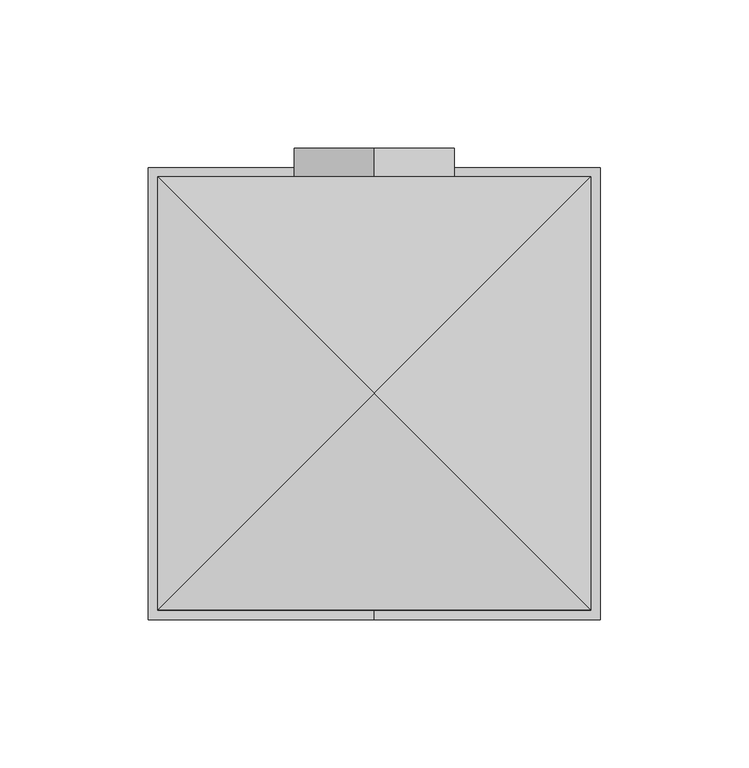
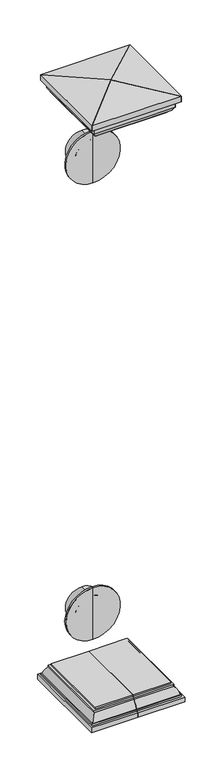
"""IFC4 building model written with IfcOpenShell, lengths in millimetres: railing geometry, RailEasy™ Nautilus Flat."""

from ifc_helpers import new_model, si_unit, point, frame, origin, place, context, project, spatial, polyline, circle_curve, ellipse_curve, trimmed, source, transform, mapped, element, save
from ifc_brep_helpers import plane_surface, cylinder_surface, revolved_surface, advanced_brep


def railing_6dc1cf43(model_context):
    return source(origin(), model_context, "Body", "AdvancedBrep", [
        advanced_brep(
        [(6384.1486243, 1148.0560787, 2046.549264), (6384.1486243, 1148.0560787, 2132.274264), (6384.1486243, 1146.4685787, 2133.861764), (6384.1486243, 1146.4685787, 2044.961764), (6384.1486243, 1148.0560787, 2060.836764), (6384.1486243, 1148.0560787, 2117.986764), (6384.1486243, 1149.6435787, 2062.424264), (6384.1486243, 1149.6435787, 2116.399264), (6384.1486243, 1143.2935787, 2044.961764), (6384.1486243, 1143.2935787, 2133.861764), (6384.1486243, 1143.2935787, 2089.411764), (6384.1486243, 1175.0435787, 2062.424264), (6384.1486243, 1175.0435787, 2116.399264), (6384.1486243, 1175.0435787, 2089.411764)],
        [
            (0, 1, circle_curve(frame((6384.1486243, 1148.0560787, 2089.411764), z_axis=(0.0, -1.0, 0.0), x_axis=(0.0, 0.0, 1.0)), 42.8625)),
            (1, 2),
            (2, 3, circle_curve(frame((6384.1486243, 1146.4685787, 2089.411764), z_axis=(0.0, 1.0, 0.0), x_axis=(0.0, 0.0, 1.0)), 44.45)),
            (3, 0),
            (1, 0, circle_curve(frame((6384.1486243, 1148.0560787, 2089.411764), z_axis=(0.0, -1.0, 0.0), x_axis=(0.0, 0.0, 1.0)), 42.8625)),
            (3, 2, circle_curve(frame((6384.1486243, 1146.4685787, 2089.411764), z_axis=(0.0, 1.0, 0.0), x_axis=(0.0, 0.0, 1.0)), 44.45)),
            (4, 5, circle_curve(frame((6384.1486243, 1148.0560787, 2089.411764), z_axis=(0.0, -1.0, 0.0), x_axis=(0.0, 0.0, 1.0)), 28.575)),
            (5, 1),
            (0, 4),
            (5, 4, circle_curve(frame((6384.1486243, 1148.0560787, 2089.411764), z_axis=(0.0, -1.0, 0.0), x_axis=(0.0, 0.0, 1.0)), 28.575)),
            (6, 7, circle_curve(frame((6384.1486243, 1149.6435787, 2089.411764), z_axis=(0.0, -1.0, 0.0), x_axis=(0.0, 0.0, 1.0)), 26.9875)),
            (7, 5, circle_curve(frame((6384.1486243, 1149.6435787, 2117.986764), z_axis=(-1.0, 0.0, 0.0), x_axis=(0.0, -1.0, 0.0)), 1.5875)),
            (4, 6, circle_curve(frame((6384.1486243, 1149.6435787, 2060.836764), z_axis=(-1.0, 0.0, 0.0), x_axis=(0.0, -1.0, 0.0)), 1.5875)),
            (7, 6, circle_curve(frame((6384.1486243, 1149.6435787, 2089.411764), z_axis=(0.0, -1.0, 0.0), x_axis=(0.0, 0.0, 1.0)), 26.9875)),
            (8, 9, circle_curve(frame((6384.1486243, 1143.2935787, 2089.411764), z_axis=(0.0, -1.0, 0.0), x_axis=(0.0, 0.0, 1.0)), 44.45)),
            (9, 10),
            (10, 8),
            (9, 8, circle_curve(frame((6384.1486243, 1143.2935787, 2089.411764), z_axis=(0.0, -1.0, 0.0), x_axis=(0.0, 0.0, 1.0)), 44.45)),
            (2, 9),
            (8, 3),
            (11, 12, circle_curve(frame((6384.1486243, 1175.0435787, 2089.411764), z_axis=(0.0, -1.0, 0.0), x_axis=(0.0, 0.0, 1.0)), 26.9875)),
            (12, 7),
            (6, 11),
            (12, 11, circle_curve(frame((6384.1486243, 1175.0435787, 2089.411764), z_axis=(0.0, -1.0, 0.0), x_axis=(0.0, 0.0, 1.0)), 26.9875)),
            (13, 12),
            (11, 13),
        ],
        [
            revolved_surface(polyline([(6384.1486243, 1146.4685787, 2133.861764), (6384.1486243, 1148.0560787, 2132.274264)]), (6384.1486243, 1175.0435787, 2089.411764), (0.0, 1.0, 0.0)),
            plane_surface(frame((6384.1486243, 1148.0560787, 2089.411764), z_axis=(0.0, 1.0, 0.0), x_axis=(0.0, 0.0, 1.0))),
            revolved_surface(trimmed(ellipse_curve(frame((6384.1486243, 1149.6435787, 2117.986764), z_axis=(1.0, 0.0, 0.0), x_axis=(0.0, -1.0, 0.0)), 1.5875, 1.5875), [point((6384.1486243, 1148.0560787, 2117.986764))], [point((6384.1486243, 1149.6435787, 2116.399264))], True, "CARTESIAN"), (6384.1486243, 1175.0435787, 2089.411764), (0.0, 1.0, 0.0)),
            plane_surface(frame((6384.1486243, 1143.2935787, 2089.411764), z_axis=(0.0, -1.0, 0.0), x_axis=(0.0, 0.0, 1.0))),
            cylinder_surface(frame((6384.1486243, 1175.0435787, 2089.411764), z_axis=(0.0, 1.0, 0.0), x_axis=(0.0, 0.0, 1.0)), 44.45),
            cylinder_surface(frame((6384.1486243, 1175.0435787, 2089.411764), z_axis=(0.0, 1.0, 0.0), x_axis=(0.0, 0.0, 1.0)), 26.9875),
            plane_surface(frame((6384.1486243, 1175.0435787, 2089.411764), z_axis=(0.0, 1.0, 0.0), x_axis=(0.0, 0.0, 1.0))),
        ],
        [
            (0, [[1, 2, 3, 4]]),
            (0, [[5, -4, 6, -2]]),
            (1, [[7, 8, -1, 9]]),
            (1, [[10, -9, -5, -8]]),
            (2, [[11, 12, -7, 13]]),
            (2, [[14, -13, -10, -12]]),
            (3, [[15, 16, 17]]),
            (3, [[18, -17, -16]]),
            (4, [[-3, 19, -15, 20]]),
            (4, [[-6, -20, -18, -19]]),
            (5, [[21, 22, -11, 23]]),
            (5, [[24, -23, -14, -22]]),
            (6, [[25, -21, 26]]),
            (6, [[-26, -24, -25]]),
        ],
    ),
        advanced_brep(
        [(6384.1486243, 1148.0560787, 2833.7651495), (6384.1486243, 1148.0560787, 2919.4901495), (6384.1486243, 1146.4685787, 2921.0776495), (6384.1486243, 1146.4685787, 2832.1776495), (6384.1486243, 1148.0560787, 2848.0526495), (6384.1486243, 1148.0560787, 2905.2026495), (6384.1486243, 1149.6435787, 2849.6401495), (6384.1486243, 1149.6435787, 2903.6151495), (6384.1486243, 1143.2935787, 2832.1776495), (6384.1486243, 1143.2935787, 2921.0776495), (6384.1486243, 1143.2935787, 2876.6276495), (6384.1486243, 1175.0435787, 2849.6401495), (6384.1486243, 1175.0435787, 2903.6151495), (6384.1486243, 1175.0435787, 2876.6276495)],
        [
            (0, 1, circle_curve(frame((6384.1486243, 1148.0560787, 2876.6276495), z_axis=(0.0, -1.0, 0.0), x_axis=(0.0, 0.0, 1.0)), 42.8625)),
            (1, 2),
            (2, 3, circle_curve(frame((6384.1486243, 1146.4685787, 2876.6276495), z_axis=(0.0, 1.0, 0.0), x_axis=(0.0, 0.0, 1.0)), 44.45)),
            (3, 0),
            (1, 0, circle_curve(frame((6384.1486243, 1148.0560787, 2876.6276495), z_axis=(0.0, -1.0, 0.0), x_axis=(0.0, 0.0, 1.0)), 42.8625)),
            (3, 2, circle_curve(frame((6384.1486243, 1146.4685787, 2876.6276495), z_axis=(0.0, 1.0, 0.0), x_axis=(0.0, 0.0, 1.0)), 44.45)),
            (4, 5, circle_curve(frame((6384.1486243, 1148.0560787, 2876.6276495), z_axis=(0.0, -1.0, 0.0), x_axis=(0.0, 0.0, 1.0)), 28.575)),
            (5, 1),
            (0, 4),
            (5, 4, circle_curve(frame((6384.1486243, 1148.0560787, 2876.6276495), z_axis=(0.0, -1.0, 0.0), x_axis=(0.0, 0.0, 1.0)), 28.575)),
            (6, 7, circle_curve(frame((6384.1486243, 1149.6435787, 2876.6276495), z_axis=(0.0, -1.0, 0.0), x_axis=(0.0, 0.0, 1.0)), 26.9875)),
            (7, 5, circle_curve(frame((6384.1486243, 1149.6435787, 2905.2026495), z_axis=(-1.0, 0.0, 0.0), x_axis=(0.0, -1.0, 0.0)), 1.5875)),
            (4, 6, circle_curve(frame((6384.1486243, 1149.6435787, 2848.0526495), z_axis=(-1.0, 0.0, 0.0), x_axis=(0.0, -1.0, 0.0)), 1.5875)),
            (7, 6, circle_curve(frame((6384.1486243, 1149.6435787, 2876.6276495), z_axis=(0.0, -1.0, 0.0), x_axis=(0.0, 0.0, 1.0)), 26.9875)),
            (8, 9, circle_curve(frame((6384.1486243, 1143.2935787, 2876.6276495), z_axis=(0.0, -1.0, 0.0), x_axis=(0.0, 0.0, 1.0)), 44.45)),
            (9, 10),
            (10, 8),
            (9, 8, circle_curve(frame((6384.1486243, 1143.2935787, 2876.6276495), z_axis=(0.0, -1.0, 0.0), x_axis=(0.0, 0.0, 1.0)), 44.45)),
            (2, 9),
            (8, 3),
            (11, 12, circle_curve(frame((6384.1486243, 1175.0435787, 2876.6276495), z_axis=(0.0, -1.0, 0.0), x_axis=(0.0, 0.0, 1.0)), 26.9875)),
            (12, 7),
            (6, 11),
            (12, 11, circle_curve(frame((6384.1486243, 1175.0435787, 2876.6276495), z_axis=(0.0, -1.0, 0.0), x_axis=(0.0, 0.0, 1.0)), 26.9875)),
            (13, 12),
            (11, 13),
        ],
        [
            revolved_surface(polyline([(6384.1486243, 1146.4685787, 2921.0776495), (6384.1486243, 1148.0560787, 2919.4901495)]), (6384.1486243, 1143.2935787, 2876.6276495), (0.0, 1.0, 0.0)),
            plane_surface(frame((6384.1486243, 1148.0560787, 2876.6276495), z_axis=(0.0, 1.0, 0.0), x_axis=(0.0, 0.0, 1.0))),
            revolved_surface(trimmed(ellipse_curve(frame((6384.1486243, 1149.6435787, 2905.2026495), z_axis=(1.0, 0.0, 0.0), x_axis=(0.0, -1.0, 0.0)), 1.5875, 1.5875), [point((6384.1486243, 1148.0560787, 2905.2026495))], [point((6384.1486243, 1149.6435787, 2903.6151495))], True, "CARTESIAN"), (6384.1486243, 1143.2935787, 2876.6276495), (0.0, 1.0, 0.0)),
            plane_surface(frame((6384.1486243, 1143.2935787, 2876.6276495), z_axis=(0.0, -1.0, 0.0), x_axis=(0.0, 0.0, 1.0))),
            cylinder_surface(frame((6384.1486243, 1143.2935787, 2876.6276495), z_axis=(0.0, 1.0, 0.0), x_axis=(0.0, 0.0, 1.0)), 44.45),
            cylinder_surface(frame((6384.1486243, 1143.2935787, 2876.6276495), z_axis=(0.0, 1.0, 0.0), x_axis=(0.0, 0.0, 1.0)), 26.9875),
            plane_surface(frame((6384.1486243, 1175.0435787, 2876.6276495), z_axis=(0.0, 1.0, 0.0), x_axis=(0.0, 0.0, 1.0))),
        ],
        [
            (0, [[1, 2, 3, 4]]),
            (0, [[5, -4, 6, -2]]),
            (1, [[7, 8, -1, 9]]),
            (1, [[10, -9, -5, -8]]),
            (2, [[11, 12, -7, 13]]),
            (2, [[14, -13, -10, -12]]),
            (3, [[15, 16, 17]]),
            (3, [[18, -17, -16]]),
            (4, [[-3, 19, -15, 20]]),
            (4, [[-6, -20, -18, -19]]),
            (5, [[21, 22, -11, 23]]),
            (5, [[24, -23, -14, -22]]),
            (6, [[25, -21, 26]]),
            (6, [[-26, -24, -25]]),
        ],
    ),
        advanced_brep(
        [(6384.1486243, 1016.2935787, 1987.826087), (6384.1486243, 1016.2935787, 1995.763587), (6384.1486243, 1019.4685787, 1995.763587), (6384.1486243, 1019.4685787, 1998.938587), (6384.1486243, 1021.0560787, 1998.938587), (6384.1486243, 1027.4060787, 2011.638587), (6384.1486243, 1027.4060787, 2014.813587), (6384.1486243, 1030.5810787, 2014.813587), (6384.1486243, 1030.5810787, 2017.988587), (6384.1486243, 1154.4060787, 2017.988587), (6384.1486243, 1154.4060787, 2014.813587), (6384.1486243, 1157.5810787, 2014.813587), (6384.1486243, 1157.5810787, 2011.638587), (6384.1486243, 1163.9310787, 1998.938587), (6384.1486243, 1165.5185787, 1998.938587), (6384.1486243, 1165.5185787, 1995.763587), (6384.1486243, 1168.6935787, 1995.763587), (6384.1486243, 1168.6935787, 1987.826087), (6446.0611243, 1030.5810787, 2017.988587), (6446.0611243, 1154.4060787, 2017.988587), (6446.0611243, 1030.5810787, 2014.813587), (6446.0611243, 1154.4060787, 2014.813587), (6449.2361243, 1027.4060787, 2014.813587), (6449.2361243, 1157.5810787, 2014.813587), (6449.2361243, 1027.4060787, 2011.638587), (6449.2361243, 1157.5810787, 2011.638587), (6455.5861243, 1021.0560787, 1998.938587), (6455.5861243, 1163.9310787, 1998.938587), (6457.1736243, 1019.4685787, 1998.938587), (6457.1736243, 1165.5185787, 1998.938587), (6457.1736243, 1019.4685787, 1995.763587), (6457.1736243, 1165.5185787, 1995.763587), (6460.3486243, 1016.2935787, 1995.763587), (6460.3486243, 1168.6935787, 1995.763587), (6460.3486243, 1016.2935787, 1987.826087), (6460.3486243, 1168.6935787, 1987.826087)],
        [
            (0, 1),
            (1, 2),
            (2, 3),
            (3, 4),
            (4, 5, circle_curve(frame((6384.1486243, 1046.4560787, 1994.176087), z_axis=(-1.0, 0.0, 0.0), x_axis=(0.0, -1.0, 0.0)), 25.8426277)),
            (5, 6),
            (6, 7),
            (7, 8),
            (8, 9),
            (9, 10),
            (10, 11),
            (11, 12),
            (12, 13, circle_curve(frame((6384.1486243, 1138.5310787, 1994.176087), z_axis=(-1.0, 0.0, 0.0), x_axis=(0.0, -1.0, 0.0)), 25.8426277)),
            (13, 14),
            (14, 15),
            (15, 16),
            (16, 17),
            (17, 0),
            (8, 18),
            (18, 19),
            (19, 9),
            (18, 20),
            (20, 21),
            (21, 19),
            (20, 7),
            (6, 22),
            (22, 23),
            (23, 11),
            (10, 21),
            (22, 24),
            (24, 25),
            (25, 23),
            (24, 26, ellipse_curve(frame((6430.1861243, 1046.4560787, 1994.176087), z_axis=(0.7071067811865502, 0.7071067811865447, 0.0), x_axis=(-0.7071067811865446, 0.7071067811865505, 0.0)), 36.5469946, 25.8426277)),
            (26, 27),
            (27, 25, ellipse_curve(frame((6430.1861243, 1138.5310787, 1994.176087), z_axis=(0.7071067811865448, -0.7071067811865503, 0.0), x_axis=(0.7071067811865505, 0.7071067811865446, 0.0)), 36.5469946, 25.8426277)),
            (26, 4),
            (3, 28),
            (28, 29),
            (29, 14),
            (13, 27),
            (28, 30),
            (30, 31),
            (31, 29),
            (30, 2),
            (1, 32),
            (32, 33),
            (33, 16),
            (15, 31),
            (32, 34),
            (34, 35),
            (35, 33),
            (34, 0),
            (17, 35),
            (5, 24),
            (12, 25),
        ],
        [
            plane_surface(frame((6384.1486243, 1185.6394663, 1987.826087), z_axis=(-1.0, 0.0, 0.0), x_axis=(0.0, -1.0, 0.0))),
            plane_surface(frame((6384.1486243, 1185.6394663, 2017.988587), z_axis=(0.0, 0.0, 1.0), x_axis=(0.0, -1.0, 0.0))),
            plane_surface(frame((6446.0611243, 1185.6394663, 2017.988587), z_axis=(1.0, 0.0, 0.0), x_axis=(0.0, -1.0, 0.0))),
            plane_surface(frame((6446.0611243, 1185.6394663, 2014.813587), z_axis=(0.0, 0.0, 1.0), x_axis=(0.0, -1.0, 0.0))),
            plane_surface(frame((6449.2361243, 1185.6394663, 2014.813587), z_axis=(1.0, 0.0, 0.0), x_axis=(0.0, -1.0, 0.0))),
            cylinder_surface(frame((6430.1861243, 999.3476912, 1994.176087), z_axis=(0.0, 1.0, 0.0), x_axis=(-1.0, 0.0, 0.0)), 25.8426277),
            plane_surface(frame((6455.5861243, 1185.6394663, 1998.938587), z_axis=(0.0, 0.0, 1.0), x_axis=(0.0, -1.0, 0.0))),
            plane_surface(frame((6457.1736243, 1185.6394663, 1998.938587), z_axis=(1.0, 0.0, 0.0), x_axis=(0.0, -1.0, 0.0))),
            plane_surface(frame((6457.1736243, 1185.6394663, 1995.763587), z_axis=(0.0, 0.0, 1.0), x_axis=(0.0, -1.0, 0.0))),
            plane_surface(frame((6460.3486243, 1185.6394663, 1995.763587), z_axis=(1.0, 0.0, 0.0), x_axis=(0.0, -1.0, 0.0))),
            plane_surface(frame((6460.3486243, 1185.6394663, 1987.826087), z_axis=(0.0, 0.0, -1.0), x_axis=(0.0, -1.0, 0.0))),
            plane_surface(frame((6307.9486243, 1016.2935787, 1995.763587), z_axis=(0.0, -1.0, 0.0), x_axis=(1.0, 0.0, 0.0))),
            plane_surface(frame((6307.9486243, 1030.5810787, 2017.988587), z_axis=(0.0, -1.0, 0.0), x_axis=(1.0, 0.0, 0.0))),
            plane_surface(frame((6307.9486243, 1027.4060787, 2014.813587), z_axis=(0.0, -1.0, 0.0), x_axis=(1.0, 0.0, 0.0))),
            cylinder_surface(frame((6460.3486243, 1046.4560787, 1994.176087), z_axis=(1.0, 0.0, 0.0), x_axis=(0.0, -1.0, 0.0)), 25.8426277),
            plane_surface(frame((6307.9486243, 1019.4685787, 1998.938587), z_axis=(0.0, -1.0, 0.0), x_axis=(1.0, 0.0, 0.0))),
            plane_surface(frame((6307.9486243, 1168.6935787, 1987.826087), z_axis=(0.0, 1.0, 0.0), x_axis=(1.0, 0.0, 0.0))),
            plane_surface(frame((6307.9486243, 1165.5185787, 1995.763587), z_axis=(0.0, 1.0, 0.0), x_axis=(1.0, 0.0, 0.0))),
            cylinder_surface(frame((6460.3486243, 1138.5310787, 1994.176087), z_axis=(1.0, 0.0, 0.0), x_axis=(0.0, -1.0, 0.0)), 25.8426277),
            plane_surface(frame((6307.9486243, 1157.5810787, 2011.638587), z_axis=(0.0, 1.0, 0.0), x_axis=(1.0, 0.0, 0.0))),
            plane_surface(frame((6307.9486243, 1154.4060787, 2014.813587), z_axis=(0.0, 1.0, 0.0), x_axis=(1.0, 0.0, 0.0))),
        ],
        [
            (0, [[1, 2, 3, 4, 5, 6, 7, 8, 9, 10, 11, 12, 13, 14, 15, 16, 17, 18]]),
            (1, [[19, 20, 21, -9]]),
            (2, [[22, 23, 24, -20]]),
            (3, [[25, -7, 26, 27, 28, -11, 29, -23]]),
            (4, [[-27, 30, 31, 32]]),
            (5, [[33, 34, 35, -31]]),
            (6, [[36, -4, 37, 38, 39, -14, 40, -34]]),
            (7, [[-38, 41, 42, 43]]),
            (8, [[44, -2, 45, 46, 47, -16, 48, -42]]),
            (9, [[-46, 49, 50, 51]]),
            (10, [[52, -18, 53, -50]]),
            (11, [[-1, -52, -49, -45]]),
            (12, [[-25, -22, -19, -8]]),
            (13, [[54, -30, -26, -6]]),
            (14, [[-54, -5, -36, -33]]),
            (15, [[-44, -41, -37, -3]]),
            (16, [[-47, -51, -53, -17]]),
            (17, [[-48, -15, -39, -43]]),
            (18, [[-40, -13, 55, -35]]),
            (19, [[-55, -12, -28, -32]]),
            (20, [[-29, -10, -21, -24]]),
        ],
    ),
        advanced_brep(
        [(6384.1486243, 1016.2935787, 1995.763587), (6384.1486243, 1016.2935787, 1987.826087), (6384.1486243, 1168.6935787, 1987.826087), (6384.1486243, 1168.6935787, 1995.763587), (6384.1486243, 1165.5185787, 1995.763587), (6384.1486243, 1165.5185787, 1998.938587), (6384.1486243, 1163.9310787, 1998.938587), (6384.1486243, 1157.5810787, 2011.638587), (6384.1486243, 1157.5810787, 2014.813587), (6384.1486243, 1154.4060787, 2014.813587), (6384.1486243, 1154.4060787, 2017.988587), (6384.1486243, 1030.5810787, 2017.988587), (6384.1486243, 1030.5810787, 2014.813587), (6384.1486243, 1027.4060787, 2014.813587), (6384.1486243, 1027.4060787, 2011.638587), (6384.1486243, 1021.0560787, 1998.938587), (6384.1486243, 1019.4685787, 1998.938587), (6384.1486243, 1019.4685787, 1995.763587), (6322.2361243, 1030.5810787, 2017.988587), (6322.2361243, 1154.4060787, 2017.988587), (6322.2361243, 1030.5810787, 2014.813587), (6322.2361243, 1154.4060787, 2014.813587), (6319.0611243, 1157.5810787, 2014.813587), (6319.0611243, 1027.4060787, 2014.813587), (6319.0611243, 1027.4060787, 2011.638587), (6319.0611243, 1157.5810787, 2011.638587), (6312.7111243, 1021.0560787, 1998.938587), (6312.7111243, 1163.9310787, 1998.938587), (6311.1236243, 1165.5185787, 1998.938587), (6311.1236243, 1019.4685787, 1998.938587), (6311.1236243, 1019.4685787, 1995.763587), (6311.1236243, 1165.5185787, 1995.763587), (6307.9486243, 1168.6935787, 1995.763587), (6307.9486243, 1016.2935787, 1995.763587), (6307.9486243, 1016.2935787, 1987.826087), (6307.9486243, 1168.6935787, 1987.826087)],
        [
            (0, 1),
            (1, 2),
            (2, 3),
            (3, 4),
            (4, 5),
            (5, 6),
            (6, 7, circle_curve(frame((6384.1486243, 1138.5310787, 1994.176087), z_axis=(1.0, 0.0, 0.0), x_axis=(0.0, -1.0, 0.0)), 25.8426277)),
            (7, 8),
            (8, 9),
            (9, 10),
            (10, 11),
            (11, 12),
            (12, 13),
            (13, 14),
            (14, 15, circle_curve(frame((6384.1486243, 1046.4560787, 1994.176087), z_axis=(1.0, 0.0, 0.0), x_axis=(0.0, -1.0, 0.0)), 25.8426277)),
            (15, 16),
            (16, 17),
            (17, 0),
            (18, 11),
            (10, 19),
            (19, 18),
            (20, 18),
            (19, 21),
            (21, 20),
            (12, 20),
            (21, 9),
            (8, 22),
            (22, 23),
            (23, 13),
            (24, 23),
            (22, 25),
            (25, 24),
            (26, 24, ellipse_curve(frame((6338.1111243, 1046.4560787, 1994.176087), z_axis=(-0.7071067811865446, 0.7071067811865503, 0.0), x_axis=(0.7071067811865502, 0.7071067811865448, 0.0)), 36.5469946, 25.8426277)),
            (25, 27, ellipse_curve(frame((6338.1111243, 1138.5310787, 1994.176087), z_axis=(-0.7071067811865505, -0.7071067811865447, 0.0), x_axis=(-0.7071067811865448, 0.7071067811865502, 0.0)), 36.5469946, 25.8426277)),
            (27, 26),
            (15, 26),
            (27, 6),
            (5, 28),
            (28, 29),
            (29, 16),
            (30, 29),
            (28, 31),
            (31, 30),
            (17, 30),
            (31, 4),
            (3, 32),
            (32, 33),
            (33, 0),
            (34, 33),
            (32, 35),
            (35, 34),
            (1, 34),
            (35, 2),
            (24, 14),
            (25, 7),
        ],
        [
            plane_surface(frame((6384.1486243, 1185.6394663, 2017.988587), z_axis=(1.0, 0.0, 0.0), x_axis=(0.0, -1.0, 0.0))),
            plane_surface(frame((6322.2361243, 1185.6394663, 2017.988587), z_axis=(0.0, 0.0, 1.0), x_axis=(0.0, -1.0, 0.0))),
            plane_surface(frame((6322.2361243, 1185.6394663, 2014.813587), z_axis=(-1.0, 0.0, 0.0), x_axis=(0.0, -1.0, 0.0))),
            plane_surface(frame((6319.0611243, 1185.6394663, 2014.813587), z_axis=(0.0, 0.0, 1.0), x_axis=(0.0, -1.0, 0.0))),
            plane_surface(frame((6319.0611243, 1185.6394663, 2011.638587), z_axis=(-1.0, 0.0, 0.0), x_axis=(0.0, -1.0, 0.0))),
            cylinder_surface(frame((6338.1111243, 999.3476912, 1994.176087), z_axis=(0.0, 1.0, 0.0), x_axis=(1.0, 0.0, 0.0)), 25.8426277),
            plane_surface(frame((6311.1236243, 1185.6394663, 1998.938587), z_axis=(0.0, 0.0, 1.0), x_axis=(0.0, -1.0, 0.0))),
            plane_surface(frame((6311.1236243, 1185.6394663, 1995.763587), z_axis=(-1.0, 0.0, 0.0), x_axis=(0.0, -1.0, 0.0))),
            plane_surface(frame((6307.9486243, 1185.6394663, 1995.763587), z_axis=(0.0, 0.0, 1.0), x_axis=(0.0, -1.0, 0.0))),
            plane_surface(frame((6307.9486243, 1185.6394663, 1987.826087), z_axis=(-1.0, 0.0, 0.0), x_axis=(0.0, -1.0, 0.0))),
            plane_surface(frame((6384.1486243, 1185.6394663, 1987.826087), z_axis=(0.0, 0.0, -1.0), x_axis=(0.0, -1.0, 0.0))),
            plane_surface(frame((6307.9486243, 1016.2935787, 1995.763587), z_axis=(0.0, -1.0, 0.0), x_axis=(1.0, 0.0, 0.0))),
            plane_surface(frame((6307.9486243, 1030.5810787, 2017.988587), z_axis=(0.0, -1.0, 0.0), x_axis=(1.0, 0.0, 0.0))),
            plane_surface(frame((6307.9486243, 1027.4060787, 2014.813587), z_axis=(0.0, -1.0, 0.0), x_axis=(1.0, 0.0, 0.0))),
            cylinder_surface(frame((6460.3486243, 1046.4560787, 1994.176087), z_axis=(1.0, 0.0, 0.0), x_axis=(0.0, -1.0, 0.0)), 25.8426277),
            plane_surface(frame((6307.9486243, 1019.4685787, 1998.938587), z_axis=(0.0, -1.0, 0.0), x_axis=(1.0, 0.0, 0.0))),
            plane_surface(frame((6307.9486243, 1168.6935787, 1987.826087), z_axis=(0.0, 1.0, 0.0), x_axis=(1.0, 0.0, 0.0))),
            plane_surface(frame((6307.9486243, 1165.5185787, 1995.763587), z_axis=(0.0, 1.0, 0.0), x_axis=(1.0, 0.0, 0.0))),
            cylinder_surface(frame((6460.3486243, 1138.5310787, 1994.176087), z_axis=(1.0, 0.0, 0.0), x_axis=(0.0, -1.0, 0.0)), 25.8426277),
            plane_surface(frame((6307.9486243, 1157.5810787, 2011.638587), z_axis=(0.0, 1.0, 0.0), x_axis=(1.0, 0.0, 0.0))),
            plane_surface(frame((6307.9486243, 1154.4060787, 2014.813587), z_axis=(0.0, 1.0, 0.0), x_axis=(1.0, 0.0, 0.0))),
        ],
        [
            (0, [[1, 2, 3, 4, 5, 6, 7, 8, 9, 10, 11, 12, 13, 14, 15, 16, 17, 18]]),
            (1, [[19, -11, 20, 21]]),
            (2, [[22, -21, 23, 24]]),
            (3, [[25, -24, 26, -9, 27, 28, 29, -13]]),
            (4, [[30, -28, 31, 32]]),
            (5, [[33, -32, 34, 35]]),
            (6, [[36, -35, 37, -6, 38, 39, 40, -16]]),
            (7, [[41, -39, 42, 43]]),
            (8, [[44, -43, 45, -4, 46, 47, 48, -18]]),
            (9, [[49, -47, 50, 51]]),
            (10, [[52, -51, 53, -2]]),
            (11, [[-1, -48, -49, -52]]),
            (12, [[-25, -12, -19, -22]]),
            (13, [[54, -14, -29, -30]]),
            (14, [[-54, -33, -36, -15]]),
            (15, [[-44, -17, -40, -41]]),
            (16, [[-46, -3, -53, -50]]),
            (17, [[-45, -42, -38, -5]]),
            (18, [[-37, -34, 55, -7]]),
            (19, [[-55, -31, -27, -8]]),
            (20, [[-26, -23, -20, -10]]),
        ],
    ),
        advanced_brep(
        [(6311.1236243, 1019.4685787, 3030.813587), (6384.1486243, 1092.4935787, 3040.338587), (6311.1236243, 1165.5185787, 3030.813587), (6311.1236243, 1019.4685787, 3021.288587), (6311.1236243, 1165.5185787, 3021.288587), (6317.4736243, 1025.8185787, 3021.288587), (6317.4736243, 1159.1685787, 3021.288587), (6317.4736243, 1025.8185787, 3010.1299834), (6317.4736243, 1159.1685787, 3010.1299834), (6321.144718, 1029.4896725, 3003.826087), (6321.144718, 1155.497485, 3003.826087), (6324.319718, 1032.6646725, 3003.826087), (6324.319718, 1152.322485, 3003.826087), (6330.669718, 1039.0146725, 2997.476087), (6330.669718, 1145.972485, 2997.476087), (6330.669718, 1039.0146725, 2995.888587), (6330.669718, 1145.972485, 2995.888587), (6384.1486243, 1092.4935787, 2995.888587)],
        [
            (0, 1),
            (1, 2),
            (2, 0),
            (3, 0),
            (2, 4),
            (4, 3),
            (5, 3),
            (4, 6),
            (6, 5),
            (7, 5),
            (6, 8),
            (8, 7),
            (9, 7, ellipse_curve(frame((6308.444718, 1016.7896725, 3000.651087), z_axis=(0.7071067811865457, -0.7071067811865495, 0.0), x_axis=(-0.7071067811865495, -0.7071067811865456, 0.0)), 18.5132723, 13.0908604)),
            (8, 10, ellipse_curve(frame((6308.444718, 1168.197485, 3000.651087), z_axis=(0.7071067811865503, 0.7071067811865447, 0.0), x_axis=(0.7071067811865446, -0.7071067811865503, 0.0)), 18.5132723, 13.0908604)),
            (10, 9),
            (11, 9),
            (10, 12),
            (12, 11),
            (13, 11, ellipse_curve(frame((6330.669718, 1039.0146725, 3003.826087), z_axis=(-0.7071067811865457, 0.7071067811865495, 0.0), x_axis=(0.7071067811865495, 0.7071067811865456, 0.0)), 8.9802561, 6.35)),
            (12, 14, ellipse_curve(frame((6330.669718, 1145.972485, 3003.826087), z_axis=(-0.7071067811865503, -0.7071067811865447, 0.0), x_axis=(-0.7071067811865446, 0.7071067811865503, 0.0)), 8.9802561, 6.35)),
            (14, 13),
            (15, 13),
            (14, 16),
            (16, 15),
            (17, 15),
            (16, 17),
            (17, 1),
        ],
        [
            plane_surface(frame((6311.1236243, 1209.6952874, 3030.813587), z_axis=(-0.12933918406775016, 0.0, 0.9916004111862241), x_axis=(0.0, -1.0, 0.0))),
            plane_surface(frame((6311.1236243, 1209.6952874, 3021.288587), z_axis=(-1.0, 0.0, 0.0), x_axis=(0.0, -1.0, 0.0))),
            plane_surface(frame((6317.4736243, 1209.6952874, 3021.288587), z_axis=(0.0, 0.0, -1.0), x_axis=(0.0, -1.0, 0.0))),
            plane_surface(frame((6317.4736243, 1209.6952874, 3010.1299834), z_axis=(-1.0, 0.0, 0.0), x_axis=(0.0, -1.0, 0.0))),
            revolved_surface(polyline([(6321.535578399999, 1003.698812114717, 3000.651087), (6321.535578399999, 1181.288345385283, 3000.651087)]), (6308.444718, 983.1999994, 3000.651087), (0.0, -1.0, 0.0)),
            plane_surface(frame((6324.319718, 1209.6952874, 3003.826087), z_axis=(0.0, 0.0, -1.0), x_axis=(0.0, -1.0, 0.0))),
            cylinder_surface(frame((6330.669718, 983.1999994, 3003.826087), z_axis=(0.0, 1.0, 0.0), x_axis=(1.0, 0.0, 0.0)), 6.35),
            plane_surface(frame((6330.669718, 1209.6952874, 2995.888587), z_axis=(-1.0, 0.0, 0.0), x_axis=(0.0, -1.0, 0.0))),
            plane_surface(frame((6384.1486243, 1209.6952874, 2995.888587), z_axis=(0.0, 0.0, -1.0), x_axis=(0.0, -1.0, 0.0))),
            plane_surface(frame((6384.1486243, 1092.4935787, 3224.488587), z_axis=(0.7071067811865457, -0.7071067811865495, 0.0), x_axis=(0.0, 0.0, -1.0))),
            plane_surface(frame((6250.7986243, 1225.8435787, 3224.488587), z_axis=(0.7071067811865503, 0.7071067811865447, 0.0), x_axis=(0.0, 0.0, -1.0))),
        ],
        [
            (0, [[1, 2, 3]]),
            (1, [[4, -3, 5, 6]]),
            (2, [[7, -6, 8, 9]]),
            (3, [[10, -9, 11, 12]]),
            (4, [[13, -12, 14, 15]]),
            (5, [[16, -15, 17, 18]]),
            (6, [[19, -18, 20, 21]]),
            (7, [[22, -21, 23, 24]]),
            (8, [[25, -24, 26]]),
            (9, [[-1, -4, -7, -10, -13, -16, -19, -22, -25, 27]]),
            (10, [[-2, -27, -26, -23, -20, -17, -14, -11, -8, -5]]),
        ],
    ),
        advanced_brep(
        [(6384.1486243, 1092.4935787, 3040.338587), (6457.1736243, 1019.4685787, 3030.813587), (6457.1736243, 1165.5185787, 3030.813587), (6457.1736243, 1019.4685787, 3021.288587), (6457.1736243, 1165.5185787, 3021.288587), (6450.8236243, 1025.8185787, 3021.288587), (6450.8236243, 1159.1685787, 3021.288587), (6450.8236243, 1025.8185787, 3010.1299834), (6450.8236243, 1159.1685787, 3010.1299834), (6447.1525305, 1029.4896725, 3003.826087), (6447.1525305, 1155.497485, 3003.826087), (6443.9775305, 1032.6646725, 3003.826087), (6443.9775305, 1152.322485, 3003.826087), (6437.6275305, 1039.0146725, 2997.476087), (6437.6275305, 1145.972485, 2997.476087), (6437.6275305, 1039.0146725, 2995.888587), (6437.6275305, 1145.972485, 2995.888587), (6384.1486243, 1092.4935787, 2995.888587)],
        [
            (0, 1),
            (1, 2),
            (2, 0),
            (1, 3),
            (3, 4),
            (4, 2),
            (3, 5),
            (5, 6),
            (6, 4),
            (5, 7),
            (7, 8),
            (8, 6),
            (7, 9, ellipse_curve(frame((6459.8525305, 1016.7896725, 3000.651087), z_axis=(-0.7071067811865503, -0.7071067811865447, 0.0), x_axis=(0.7071067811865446, -0.7071067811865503, 0.0)), 18.5132723, 13.0908604)),
            (9, 10),
            (10, 8, ellipse_curve(frame((6459.8525305, 1168.197485, 3000.651087), z_axis=(-0.7071067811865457, 0.7071067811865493, 0.0), x_axis=(-0.7071067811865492, -0.7071067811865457, 0.0)), 18.5132723, 13.0908604)),
            (9, 11),
            (11, 12),
            (12, 10),
            (11, 13, ellipse_curve(frame((6437.6275305, 1039.0146725, 3003.826087), z_axis=(0.7071067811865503, 0.7071067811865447, 0.0), x_axis=(-0.7071067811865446, 0.7071067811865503, 0.0)), 8.9802561, 6.35)),
            (13, 14),
            (14, 12, ellipse_curve(frame((6437.6275305, 1145.972485, 3003.826087), z_axis=(0.7071067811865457, -0.7071067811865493, 0.0), x_axis=(0.7071067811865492, 0.7071067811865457, 0.0)), 8.9802561, 6.35)),
            (13, 15),
            (15, 16),
            (16, 14),
            (15, 17),
            (17, 16),
            (0, 17),
        ],
        [
            plane_surface(frame((6384.1486243, 1209.6952874, 3040.338587), z_axis=(0.12933918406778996, 0.0, 0.9916004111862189), x_axis=(0.0, -1.0, 0.0))),
            plane_surface(frame((6457.1736243, 1209.6952874, 3030.813587), z_axis=(1.0, 0.0, 0.0), x_axis=(0.0, -1.0, 0.0))),
            plane_surface(frame((6457.1736243, 1209.6952874, 3021.288587), z_axis=(0.0, 0.0, -1.0), x_axis=(0.0, -1.0, 0.0))),
            plane_surface(frame((6450.8236243, 1209.6952874, 3021.288587), z_axis=(1.0, 0.0, 0.0), x_axis=(0.0, -1.0, 0.0))),
            revolved_surface(polyline([(6446.761670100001, 1003.6988121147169, 3000.651087), (6446.761670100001, 1181.288345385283, 3000.651087)]), (6459.8525305, 983.1999994, 3000.651087), (0.0, -1.0, 0.0)),
            plane_surface(frame((6447.1525305, 1209.6952874, 3003.826087), z_axis=(0.0, 0.0, -1.0), x_axis=(0.0, -1.0, 0.0))),
            cylinder_surface(frame((6437.6275305, 983.1999994, 3003.826087), z_axis=(0.0, 1.0, 0.0), x_axis=(-1.0, 0.0, 0.0)), 6.35),
            plane_surface(frame((6437.6275305, 1209.6952874, 2997.476087), z_axis=(1.0, 0.0, 0.0), x_axis=(0.0, -1.0, 0.0))),
            plane_surface(frame((6437.6275305, 1209.6952874, 2995.888587), z_axis=(0.0, 0.0, -1.0), x_axis=(0.0, -1.0, 0.0))),
            plane_surface(frame((6493.4422036, 983.1999994, 3224.488587), z_axis=(-0.7071067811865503, -0.7071067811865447, 0.0), x_axis=(0.0, 0.0, -1.0))),
            plane_surface(frame((6384.1486243, 1092.4935787, 3224.488587), z_axis=(-0.7071067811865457, 0.7071067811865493, 0.0), x_axis=(0.0, 0.0, -1.0))),
        ],
        [
            (0, [[1, 2, 3]]),
            (1, [[4, 5, 6, -2]]),
            (2, [[7, 8, 9, -5]]),
            (3, [[10, 11, 12, -8]]),
            (4, [[13, 14, 15, -11]]),
            (5, [[16, 17, 18, -14]]),
            (6, [[19, 20, 21, -17]]),
            (7, [[22, 23, 24, -20]]),
            (8, [[25, 26, -23]]),
            (9, [[-1, 27, -25, -22, -19, -16, -13, -10, -7, -4]]),
            (10, [[-3, -6, -9, -12, -15, -18, -21, -24, -26, -27]]),
        ],
    ),
        advanced_brep(
        [(6384.1486243, 1092.4935787, 3040.338587), (6311.1236243, 1019.4685787, 3030.813587), (6457.1736243, 1019.4685787, 3030.813587), (6311.1236243, 1019.4685787, 3021.288587), (6457.1736243, 1019.4685787, 3021.288587), (6317.4736243, 1025.8185787, 3021.288587), (6450.8236243, 1025.8185787, 3021.288587), (6317.4736243, 1025.8185787, 3010.1299834), (6450.8236243, 1025.8185787, 3010.1299834), (6321.144718, 1029.4896725, 3003.826087), (6447.1525305, 1029.4896725, 3003.826087), (6324.319718, 1032.6646725, 3003.826087), (6443.9775305, 1032.6646725, 3003.826087), (6330.669718, 1039.0146725, 2997.476087), (6437.6275305, 1039.0146725, 2997.476087), (6330.669718, 1039.0146725, 2995.888587), (6437.6275305, 1039.0146725, 2995.888587), (6384.1486243, 1092.4935787, 2995.888587)],
        [
            (0, 1),
            (1, 2),
            (2, 0),
            (1, 3),
            (3, 4),
            (4, 2),
            (3, 5),
            (5, 6),
            (6, 4),
            (5, 7),
            (7, 8),
            (8, 6),
            (7, 9, ellipse_curve(frame((6308.444718, 1016.7896725, 3000.651087), z_axis=(-0.7071067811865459, 0.7071067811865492, 0.0), x_axis=(0.707106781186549, 0.7071067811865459, 0.0)), 18.5132723, 13.0908604)),
            (9, 10),
            (10, 8, ellipse_curve(frame((6459.8525305, 1016.7896725, 3000.651087), z_axis=(0.7071067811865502, 0.7071067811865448, 0.0), x_axis=(0.7071067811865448, -0.7071067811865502, 0.0)), 18.5132723, 13.0908604)),
            (9, 11),
            (11, 12),
            (12, 10),
            (11, 13, ellipse_curve(frame((6330.669718, 1039.0146725, 3003.826087), z_axis=(0.7071067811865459, -0.7071067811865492, 0.0), x_axis=(-0.707106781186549, -0.7071067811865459, 0.0)), 8.9802561, 6.35)),
            (13, 14),
            (14, 12, ellipse_curve(frame((6437.6275305, 1039.0146725, 3003.826087), z_axis=(-0.7071067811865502, -0.7071067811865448, 0.0), x_axis=(-0.7071067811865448, 0.7071067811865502, 0.0)), 8.9802561, 6.35)),
            (13, 15),
            (15, 16),
            (16, 14),
            (15, 17),
            (17, 16),
            (0, 17),
        ],
        [
            plane_surface(frame((6266.9469156, 1019.4685787, 3030.813587), z_axis=(0.0, -0.1293391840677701, 0.9916004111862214), x_axis=(1.0, 0.0, 0.0))),
            plane_surface(frame((6266.9469156, 1019.4685787, 3021.288587), z_axis=(0.0, -1.0, 0.0), x_axis=(1.0, 0.0, 0.0))),
            plane_surface(frame((6266.9469156, 1025.8185787, 3021.288587), z_axis=(0.0, 0.0, -1.0), x_axis=(1.0, 0.0, 0.0))),
            plane_surface(frame((6266.9469156, 1025.8185787, 3010.1299834), z_axis=(0.0, -1.0, 0.0), x_axis=(1.0, 0.0, 0.0))),
            revolved_surface(polyline([(6472.943390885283, 1029.8805329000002, 3000.651087), (6295.353857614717, 1029.8805329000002, 3000.651087)]), (6493.4422036, 1016.7896725, 3000.651087), (1.0, 0.0, 0.0)),
            plane_surface(frame((6266.9469156, 1032.6646725, 3003.826087), z_axis=(0.0, 0.0, -1.0), x_axis=(1.0, 0.0, 0.0))),
            cylinder_surface(frame((6493.4422036, 1039.0146725, 3003.826087), z_axis=(-1.0, 0.0, 0.0), x_axis=(0.0, 1.0, 0.0)), 6.35),
            plane_surface(frame((6266.9469156, 1039.0146725, 2995.888587), z_axis=(0.0, -1.0, 0.0), x_axis=(1.0, 0.0, 0.0))),
            plane_surface(frame((6266.9469156, 1092.4935787, 2995.888587), z_axis=(0.0, 0.0, -1.0), x_axis=(1.0, 0.0, 0.0))),
            plane_surface(frame((6266.9469156, 975.29187, 3224.488587), z_axis=(-0.7071067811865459, 0.7071067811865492, 0.0), x_axis=(0.0, 0.0, -1.0))),
            plane_surface(frame((6384.1486243, 1092.4935787, 3224.488587), z_axis=(0.7071067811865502, 0.7071067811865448, 0.0), x_axis=(0.0, 0.0, -1.0))),
        ],
        [
            (0, [[1, 2, 3]]),
            (1, [[4, 5, 6, -2]]),
            (2, [[7, 8, 9, -5]]),
            (3, [[10, 11, 12, -8]]),
            (4, [[13, 14, 15, -11]]),
            (5, [[16, 17, 18, -14]]),
            (6, [[19, 20, 21, -17]]),
            (7, [[22, 23, 24, -20]]),
            (8, [[25, 26, -23]]),
            (9, [[-1, 27, -25, -22, -19, -16, -13, -10, -7, -4]]),
            (10, [[-3, -6, -9, -12, -15, -18, -21, -24, -26, -27]]),
        ],
    ),
        advanced_brep(
        [(6311.1236243, 1165.5185787, 3030.813587), (6384.1486243, 1092.4935787, 3040.338587), (6457.1736243, 1165.5185787, 3030.813587), (6311.1236243, 1165.5185787, 3021.288587), (6457.1736243, 1165.5185787, 3021.288587), (6317.4736243, 1159.1685787, 3021.288587), (6450.8236243, 1159.1685787, 3021.288587), (6317.4736243, 1159.1685787, 3010.1299834), (6450.8236243, 1159.1685787, 3010.1299834), (6321.144718, 1155.497485, 3003.826087), (6447.1525305, 1155.497485, 3003.826087), (6324.319718, 1152.322485, 3003.826087), (6443.9775305, 1152.322485, 3003.826087), (6330.669718, 1145.972485, 2997.476087), (6437.6275305, 1145.972485, 2997.476087), (6330.669718, 1145.972485, 2995.888587), (6437.6275305, 1145.972485, 2995.888587), (6384.1486243, 1092.4935787, 2995.888587)],
        [
            (0, 1),
            (1, 2),
            (2, 0),
            (3, 0),
            (2, 4),
            (4, 3),
            (5, 3),
            (4, 6),
            (6, 5),
            (7, 5),
            (6, 8),
            (8, 7),
            (9, 7, ellipse_curve(frame((6308.444718, 1168.197485, 3000.651087), z_axis=(-0.7071067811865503, -0.7071067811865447, 0.0), x_axis=(0.7071067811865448, -0.7071067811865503, 0.0)), 18.5132723, 13.0908604)),
            (8, 10, ellipse_curve(frame((6459.8525305, 1168.197485, 3000.651087), z_axis=(0.7071067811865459, -0.7071067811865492, 0.0), x_axis=(0.707106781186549, 0.7071067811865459, 0.0)), 18.5132723, 13.0908604)),
            (10, 9),
            (11, 9),
            (10, 12),
            (12, 11),
            (13, 11, ellipse_curve(frame((6330.669718, 1145.972485, 3003.826087), z_axis=(0.7071067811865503, 0.7071067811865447, 0.0), x_axis=(-0.7071067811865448, 0.7071067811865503, 0.0)), 8.9802561, 6.35)),
            (12, 14, ellipse_curve(frame((6437.6275305, 1145.972485, 3003.826087), z_axis=(-0.7071067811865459, 0.7071067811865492, 0.0), x_axis=(-0.707106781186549, -0.7071067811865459, 0.0)), 8.9802561, 6.35)),
            (14, 13),
            (15, 13),
            (14, 16),
            (16, 15),
            (17, 15),
            (16, 17),
            (17, 1),
        ],
        [
            plane_surface(frame((6266.9469156, 1092.4935787, 3040.338587), z_axis=(0.0, 0.12933918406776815, 0.9916004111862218), x_axis=(1.0, 0.0, 0.0))),
            plane_surface(frame((6266.9469156, 1165.5185787, 3030.813587), z_axis=(0.0, 1.0, 0.0), x_axis=(1.0, 0.0, 0.0))),
            plane_surface(frame((6266.9469156, 1165.5185787, 3021.288587), z_axis=(0.0, 0.0, -1.0), x_axis=(1.0, 0.0, 0.0))),
            plane_surface(frame((6266.9469156, 1159.1685787, 3021.288587), z_axis=(0.0, 1.0, 0.0), x_axis=(1.0, 0.0, 0.0))),
            revolved_surface(polyline([(6472.943390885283, 1155.1066245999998, 3000.651087), (6295.353857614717, 1155.1066245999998, 3000.651087)]), (6493.4422036, 1168.197485, 3000.651087), (1.0, 0.0, 0.0)),
            plane_surface(frame((6266.9469156, 1155.497485, 3003.826087), z_axis=(0.0, 0.0, -1.0), x_axis=(1.0, 0.0, 0.0))),
            cylinder_surface(frame((6493.4422036, 1145.972485, 3003.826087), z_axis=(-1.0, 0.0, 0.0), x_axis=(0.0, -1.0, 0.0)), 6.35),
            plane_surface(frame((6266.9469156, 1145.972485, 2997.476087), z_axis=(0.0, 1.0, 0.0), x_axis=(1.0, 0.0, 0.0))),
            plane_surface(frame((6266.9469156, 1145.972485, 2995.888587), z_axis=(0.0, 0.0, -1.0), x_axis=(1.0, 0.0, 0.0))),
            plane_surface(frame((6384.1486243, 1092.4935787, 3224.488587), z_axis=(-0.7071067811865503, -0.7071067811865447, 0.0), x_axis=(0.0, 0.0, -1.0))),
            plane_surface(frame((6493.4422036, 1201.7871581, 3224.488587), z_axis=(0.7071067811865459, -0.7071067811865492, 0.0), x_axis=(0.0, 0.0, -1.0))),
        ],
        [
            (0, [[1, 2, 3]]),
            (1, [[4, -3, 5, 6]]),
            (2, [[7, -6, 8, 9]]),
            (3, [[10, -9, 11, 12]]),
            (4, [[13, -12, 14, 15]]),
            (5, [[16, -15, 17, 18]]),
            (6, [[19, -18, 20, 21]]),
            (7, [[22, -21, 23, 24]]),
            (8, [[25, -24, 26]]),
            (9, [[-1, -4, -7, -10, -13, -16, -19, -22, -25, 27]]),
            (10, [[-2, -27, -26, -23, -20, -17, -14, -11, -8, -5]]),
        ],
    ),
    ])


if __name__ == "__main__":
    model = new_model("IFC4")
    model_context = context("Model", 3, world=origin())
    ifc_project = project(units=[si_unit("LENGTHUNIT", "METRE", prefix="MILLI")], contexts=[model_context])
    site = spatial("IfcSite", under=ifc_project)
    building = spatial("IfcBuilding", under=site)
    placement = place(None, origin())
    railing_shape = railing_6dc1cf43(model_context)
    element("IfcRailing", 1, ObjectType="RailEasy™ Nautilus Flat", at=placement, inside=building, context=model_context, shape_type="MappedRepresentation", body=[
        mapped(railing_shape, transform((0.0, 0.0, 0.0), x_axis=(1.0, 0.0, 0.0), y_axis=(0.0, 1.0, 0.0), z_axis=(0.0, 0.0, 1.0))),
    ])
    save(model, "model.ifc")
